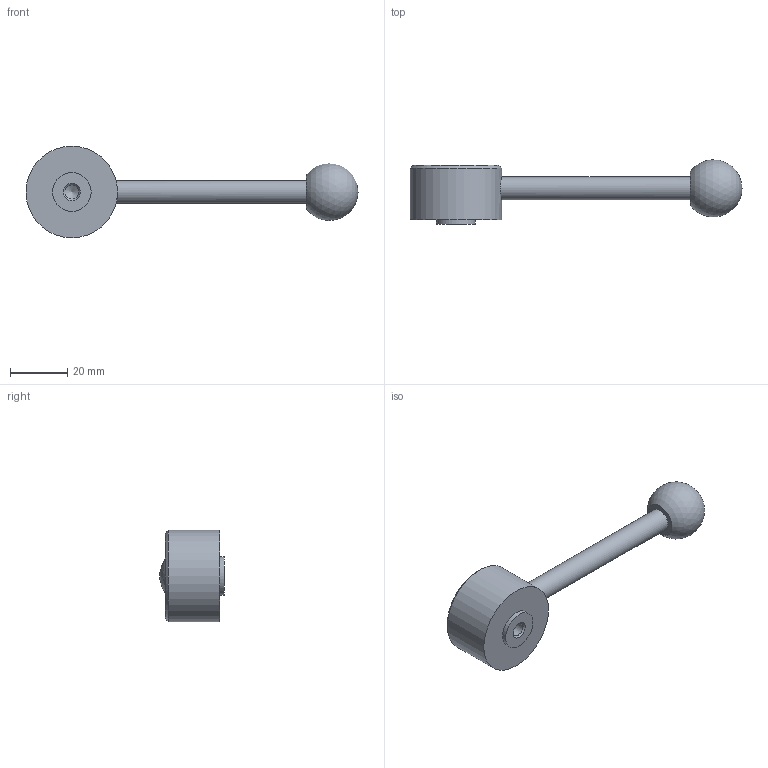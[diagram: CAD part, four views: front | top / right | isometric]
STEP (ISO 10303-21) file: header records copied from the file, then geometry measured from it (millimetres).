
FILE_DESCRIPTION( ( 'STEP AP203' ), '1' );
FILE_NAME( 'C:/Temp/Ganter_Step_05_03_2020/data/2_1/gn_125/gn_125_mb/gn_125_mb_d/Flat Adjustable Lever GN 125-32-M6-D.stp', '2020-03-05T11:00:38', ( 'License CC BY-ND 4.0' ), ( 'CADENAS' ), ' ', 'PARTsolutions', ' ' );
FILE_SCHEMA( ( 'CONFIG_CONTROL_DESIGN' ) );
Length unit declared in the file: millimetre
Products named in the file (1): _Flat Adjustable Lever GN 125-32-M6-D
Bounding box: 116 x 22.43 x 32 mm (x, y, z)
Volume: 22526.3 mm3; surface area: 6515.9 mm2
Topology: 1 solids, 1 shells, 14 faces, 25 edges, 16 vertices
Faces by surface type: cylinder 5, plane 5, cone 3, sphere 1
Full cylindrical faces by diameter (mm): 4.917 x1, 8 x1, 13.5 x1, 22 x1, 32 x1
Entity records: 388 total; most frequent: CARTESIAN_POINT 108, DIRECTION 54, AXIS2_PLACEMENT_3D 27, EDGE_LOOP 26, ORIENTED_EDGE 26, FACE_OUTER_BOUND 19, VERTEX_POINT 15, ADVANCED_FACE 14
